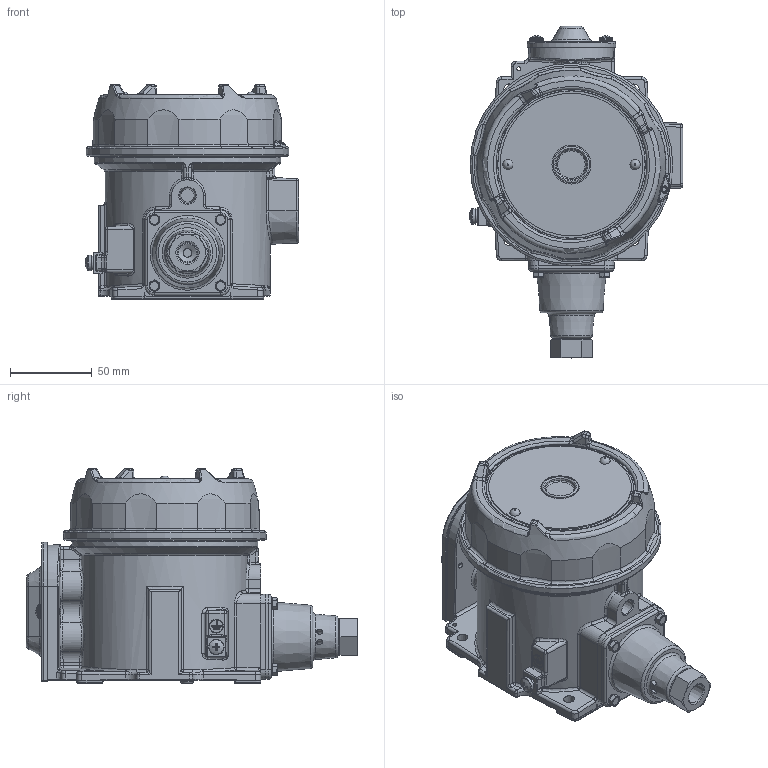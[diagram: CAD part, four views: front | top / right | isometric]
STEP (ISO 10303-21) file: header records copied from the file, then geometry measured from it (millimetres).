
FILE_DESCRIPTION (( 'STEP AP214' ), '1' );
FILE_NAME ('H121_H122-270_274_356_358_361_376.STEP', '2025-03-25T15:15:39', ( '' ), ( '' ), 'SwSTEP 2.0', 'SolidWorks 2023', '' );
FILE_SCHEMA (( 'AUTOMOTIVE_DESIGN' ));
Length unit declared in the file: inch
Products named in the file (1): H121_H122-270_274_356_358_361_376
Bounding box: 130.59 x 202.94 x 131.39 mm (x, y, z)
Volume: 626797.2 mm3; surface area: 211826.2 mm2
Topology: 21 solids, 22 shells, 1716 faces, 4138 edges, 2469 vertices
Faces by surface type: plane 472, cylinder 457, bspline 318, cone 235, torus 178, sphere 56
Full cylindrical faces by diameter (mm): 2.87 x2, 3.175 x4, 3.22 x1, 3.454 x13, 3.962 x2, 3.969 x2, 4 x1, 4.166 x4, 4.2 x2, 4.496 x4, 4.75 x2, 5 x1, 5.311 x1, 5.556 x5, 6.426 x1, 7.112 x1, 7.925 x2, 8.179 x2, 8.204 x2, 9.5 x1, 11.125 x1, 17.907 x1, 18.034 x1, 19.05 x3, 23.012 x1, 23.812 x1, 87.312 x1, 99.187 x1, 99.822 x1, 101.6 x1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
Entity records: 67112 total; most frequent: CARTESIAN_POINT 31326, ORIENTED_EDGE 7636, DIRECTION 6895, EDGE_CURVE 3818, AXIS2_PLACEMENT_3D 2845, VERTEX_POINT 2392, EDGE_LOOP 2026, FACE_OUTER_BOUND 1832
